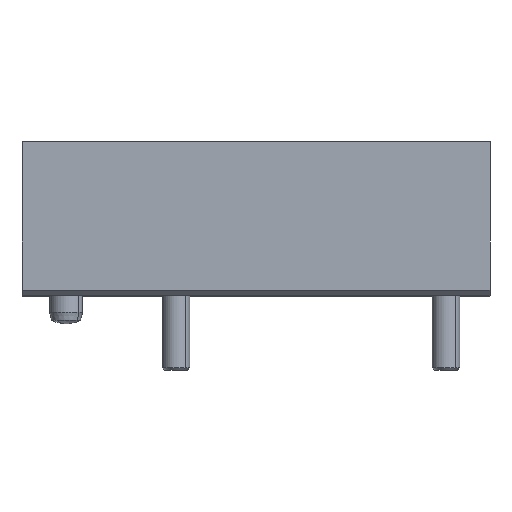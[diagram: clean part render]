
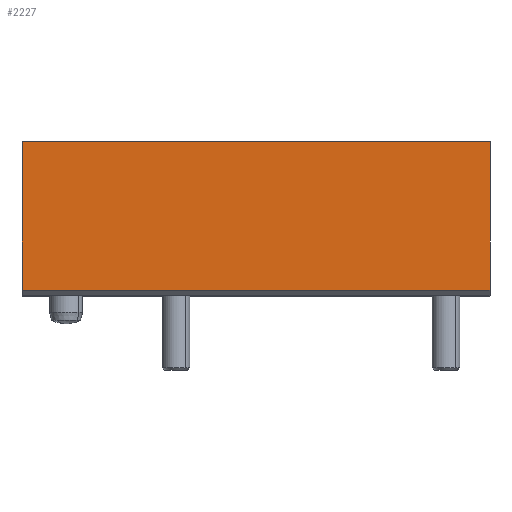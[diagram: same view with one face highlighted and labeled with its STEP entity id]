
A CAD part, top view. The second image highlights one B-rep face of the part: STEP entity #2227.
In plain terms, the highlighted planar face has unit normal (0, 0, 1) as drawn and (0, 0, -1) by its records, which use the part's own axes.
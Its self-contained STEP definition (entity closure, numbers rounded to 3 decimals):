
#24 = PLANE ( 'NONE',  #1660 ) ;
#35 = CARTESIAN_POINT ( 'NONE',  ( -42.5, 28., -28. ) ) ;
#60 = DIRECTION ( 'NONE',  ( 0., 0., 1. ) ) ;
#1176 = EDGE_LOOP ( 'NONE', ( #1483, #1525, #1486, #1500 ) ) ;
#1267 = FACE_OUTER_BOUND ( 'NONE', #1176, .T. ) ;
#1354 = VERTEX_POINT ( 'NONE', #4219 ) ;
#1393 = VERTEX_POINT ( 'NONE', #4244 ) ;
#1450 = VERTEX_POINT ( 'NONE', #4280 ) ;
#1458 = VERTEX_POINT ( 'NONE', #4296 ) ;
#1483 = ORIENTED_EDGE ( 'NONE', *, *, #2757, .T. ) ;
#1486 = ORIENTED_EDGE ( 'NONE', *, *, #2921, .F. ) ;
#1500 = ORIENTED_EDGE ( 'NONE', *, *, #2763, .F. ) ;
#1525 = ORIENTED_EDGE ( 'NONE', *, *, #2752, .T. ) ;
#1660 = AXIS2_PLACEMENT_3D ( 'NONE', #35, #60, #4581 ) ;
#2227 = ADVANCED_FACE ( 'NONE', ( #1267 ), #24, .F. ) ;
#2487 = VECTOR ( 'NONE', #3249, 1000. ) ;
#2498 = VECTOR ( 'NONE', #3194, 1000. ) ;
#2510 = VECTOR ( 'NONE', #3218, 1000. ) ;
#2687 = VECTOR ( 'NONE', #3151, 1000. ) ;
#2752 = EDGE_CURVE ( 'NONE', #1458, #1393, #3190, .T. ) ;
#2757 = EDGE_CURVE ( 'NONE', #1450, #1458, #3203, .T. ) ;
#2763 = EDGE_CURVE ( 'NONE', #1450, #1354, #3213, .T. ) ;
#2921 = EDGE_CURVE ( 'NONE', #1354, #1393, #3580, .T. ) ;
#3151 = DIRECTION ( 'NONE',  ( 0., -1., 0. ) ) ;
#3167 = CARTESIAN_POINT ( 'NONE',  ( -42.5, 1., -28. ) ) ;
#3190 = LINE ( 'NONE', #3167, #2498 ) ;
#3194 = DIRECTION ( 'NONE',  ( -1., 0., 0. ) ) ;
#3203 = LINE ( 'NONE', #3212, #2487 ) ;
#3212 = CARTESIAN_POINT ( 'NONE',  ( 42.5, 28., -28. ) ) ;
#3213 = LINE ( 'NONE', #3225, #2510 ) ;
#3218 = DIRECTION ( 'NONE',  ( -1., 0., 0. ) ) ;
#3225 = CARTESIAN_POINT ( 'NONE',  ( -42.5, 28., -28. ) ) ;
#3249 = DIRECTION ( 'NONE',  ( 0., -1., 0. ) ) ;
#3556 = CARTESIAN_POINT ( 'NONE',  ( -42.5, 28., -28. ) ) ;
#3580 = LINE ( 'NONE', #3556, #2687 ) ;
#4219 = CARTESIAN_POINT ( 'NONE',  ( -42.5, 28., -28. ) ) ;
#4244 = CARTESIAN_POINT ( 'NONE',  ( -42.5, 1., -28. ) ) ;
#4280 = CARTESIAN_POINT ( 'NONE',  ( 42.5, 28., -28. ) ) ;
#4296 = CARTESIAN_POINT ( 'NONE',  ( 42.5, 1., -28. ) ) ;
#4581 = DIRECTION ( 'NONE',  ( 1., 0., 0. ) ) ;
